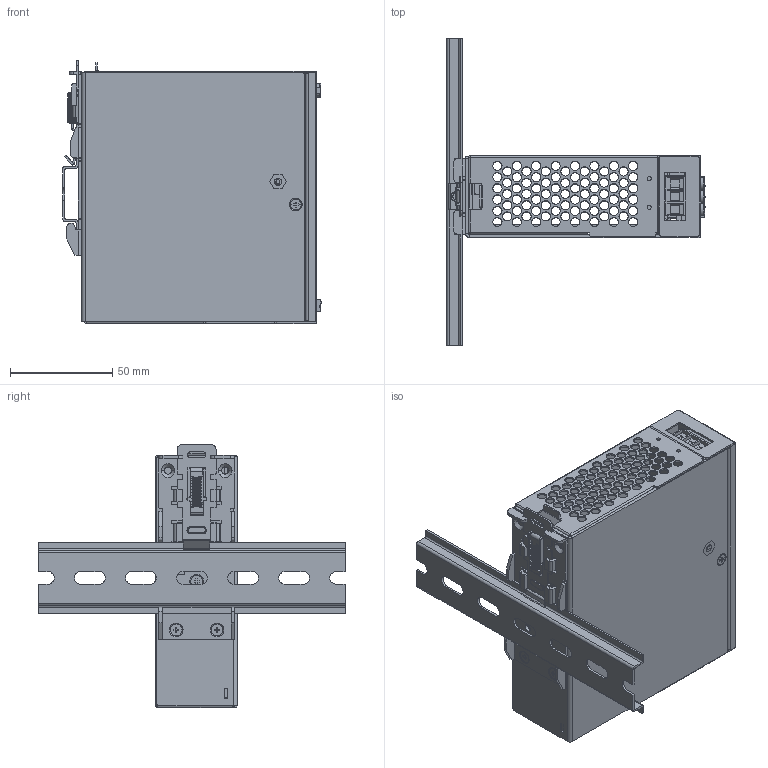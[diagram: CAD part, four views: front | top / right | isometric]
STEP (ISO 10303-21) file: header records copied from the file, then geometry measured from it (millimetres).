
FILE_DESCRIPTION((''),'2;1');
FILE_NAME('DRL-240W_DS_ASM_ASM','2020-09-15T',('CAREY.WENG'),(''),'CREO PARAMETRIC BY PTC INC, 2014190','CREO PARAMETRIC BY PTC INC, 2014190','');
FILE_SCHEMA(('CONFIG_CONTROL_DESIGN'));
Products named in the file (38): DRL-240W_CHASSIS_49_1_1_1_1; DRL-240W_PWB_57_1_1_1_1; DRL-240W_COVER-_68_1_1_1_1; CHASSIS-STANDOFF_9_1_1_1_1; DRL-240W_INSULATOR_26_1_1_1_1; VR131_0604202005_10_1_1_1_1; Q1_6_1_1_1_1; PRT0001_1_1; PRT0002_1_1; PRT0003_1_1; CLIP_27-8-3D5_2_1_1_1_1; PRT0001_2_2_2_1_1_1_1; PRT0002_2_2_2_1_1_1_1; PRT0003_3_2_2_1_1_1_1; ASM0003_ASM_1_ASM_2_ASM_2_ASM___ASM; SCREW_632_8_1_1_1_1; DINKLE_EHK2V-XXP_6_1_1_1_1_1_1; DINKLE_EHK2V-XXP_6_2_1_1_1_1_1; DINKLE_EHK2V-XXP_6_3_1_1_1_1_1; DINKLE_EHK2V-XXP_6_4_1_1_1_1_1; DINKLE_EHK2V-XXP_6_5_1_1_1_1_1; DINKLE_EHK2V-XXP_6_ASM_1_ASM_1__ASM; DINKLE_EHK2V-04P_ASM_2_ASM_1_A__ASM; DRL-240W_ACMINIBOARD_21_1_1_1_1; DRL-240W_MINIBOARD_19_1_1_1_1; DRL-240W_LED_6_1_1_1_1; RAIL_TH3515_2_1_1_1_1; 3105325100-L6_1_1_1_1_1; PCB-12_2_1_1_1_1; SCREW_3105469000_4_1_1_1_1; 3103300600_2_1_1_1_1; DINKLE_ESK635V-5132-03P_1; DRL-240W_ASM_ASM_124_ASM_1_ASM__ASM; DRL-240W_JOSH_ASM_1_ASM_1-95302_ASM; DRL-240W_JOSH_ASM_1_ASM_1-95334_ASM; DRL-240W_DS_ASM_1_ASM_1_ASM; DRL-240W_DS_ASM_ASM_1_ASM; DRL-240W_DS_ASM_ASM
Assembly tree (42 placements, depth 9):
  DRL-240W_DS_ASM_ASM
    DRL-240W_DS_ASM_ASM_1_ASM
      DRL-240W_DS_ASM_1_ASM_1_ASM
        DRL-240W_JOSH_ASM_1_ASM_1-95334_ASM
          DRL-240W_JOSH_ASM_1_ASM_1-95302_ASM
            DRL-240W_ASM_ASM_124_ASM_1_ASM__ASM
              DRL-240W_CHASSIS_49_1_1_1_1
              DRL-240W_PWB_57_1_1_1_1
              DRL-240W_COVER-_68_1_1_1_1
              CHASSIS-STANDOFF_9_1_1_1_1
              DRL-240W_INSULATOR_26_1_1_1_1
              VR131_0604202005_10_1_1_1_1
              Q1_6_1_1_1_1
              PRT0001_1_1
              PRT0002_1_1
              PRT0003_1_1
              CLIP_27-8-3D5_2_1_1_1_1  x2
              ASM0003_ASM_1_ASM_2_ASM_2_ASM___ASM
                PRT0001_2_2_2_1_1_1_1
                PRT0002_2_2_2_1_1_1_1
                PRT0003_3_2_2_1_1_1_1
              SCREW_632_8_1_1_1_1  x3
              DINKLE_EHK2V-04P_ASM_2_ASM_1_A__ASM
                DINKLE_EHK2V-XXP_6_ASM_1_ASM_1__ASM
                  DINKLE_EHK2V-XXP_6_1_1_1_1_1_1
                  DINKLE_EHK2V-XXP_6_2_1_1_1_1_1
                  DINKLE_EHK2V-XXP_6_3_1_1_1_1_1
                  DINKLE_EHK2V-XXP_6_4_1_1_1_1_1
                  DINKLE_EHK2V-XXP_6_5_1_1_1_1_1
              DRL-240W_ACMINIBOARD_21_1_1_1_1
              DRL-240W_MINIBOARD_19_1_1_1_1
              DRL-240W_LED_6_1_1_1_1
              RAIL_TH3515_2_1_1_1_1
              3105325100-L6_1_1_1_1_1
              PCB-12_2_1_1_1_1
              SCREW_3105469000_4_1_1_1_1  x3
              3103300600_2_1_1_1_1
              DINKLE_ESK635V-5132-03P_1
Bounding box: 126.55 x 150 x 128.8 mm (x, y, z)
Volume: 99083.5 mm3; surface area: 187013.6 mm2
Topology: 34 solids, 34 shells, 2619 faces, 6837 edges, 4380 vertices
Faces by surface type: plane 1449, cylinder 957, bspline 89, cone 68, torus 42, sphere 8, extrusion 6
Entity records: 86972 total; most frequent: CARTESIAN_POINT 24513, DIRECTION 13052, ORIENTED_EDGE 12642, EDGE_CURVE 6321, AXIS2_PLACEMENT_3D 4450, VECTOR 4152, LINE 4150, VERTEX_POINT 4034
